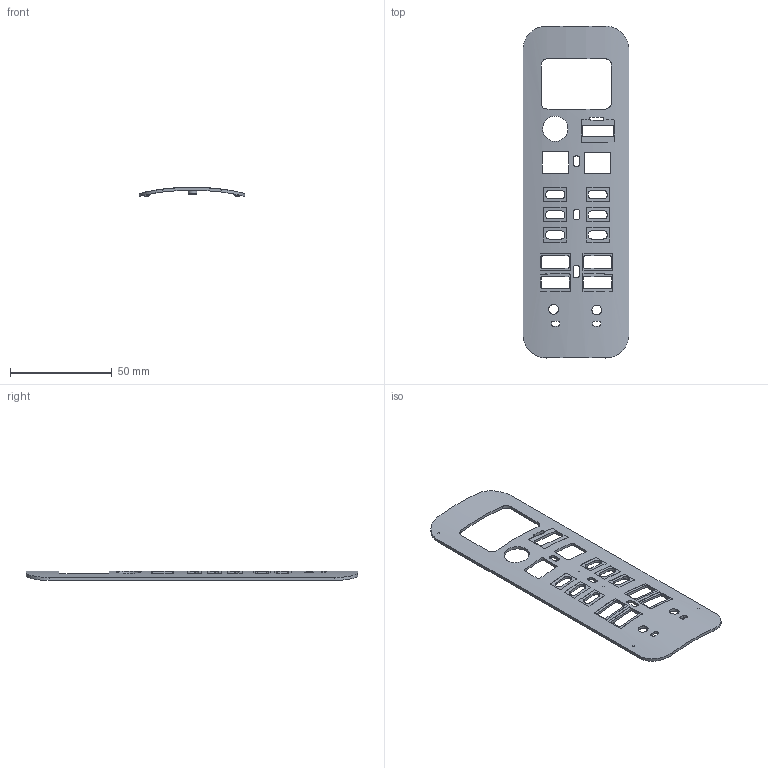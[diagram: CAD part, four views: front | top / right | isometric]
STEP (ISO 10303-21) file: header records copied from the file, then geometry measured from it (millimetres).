
FILE_DESCRIPTION(('Open CASCADE Model'),'2;1');
FILE_NAME('Open CASCADE Shape Model','2026-10-02T16:20:41',('Author'),( 'Open CASCADE'),'Open CASCADE STEP processor 7.9','Open CASCADE 7.9' ,'Unknown');
FILE_SCHEMA(('AUTOMOTIVE_DESIGN { 1 0 10303 214 1 1 1 1 }'));
Length unit declared in the file: millimetre
Products named in the file (1): Open CASCADE STEP translator 7.9 1
Bounding box: 51.9 x 163.1 x 4.7 mm (x, y, z)
Volume: 8985.7 mm3; surface area: 14549.3 mm2
Topology: 1 solids, 1 shells, 283 faces, 765 edges, 506 vertices
Faces by surface type: cylinder 141, plane 130, cone 12
Full cylindrical faces by diameter (mm): 1.3 x6, 2.6 x1, 2.8 x4, 4.2 x1, 4.8 x2, 12.4 x1
Entity records: 24733 total; most frequent: CARTESIAN_POINT 10673, DIRECTION 2204, ORIENTED_EDGE 1530, PCURVE 1530, DEFINITIONAL_REPRESENTATION 1530, LINE 1115, VECTOR 1115, B_SPLINE_CURVE_WITH_KNOTS 792
